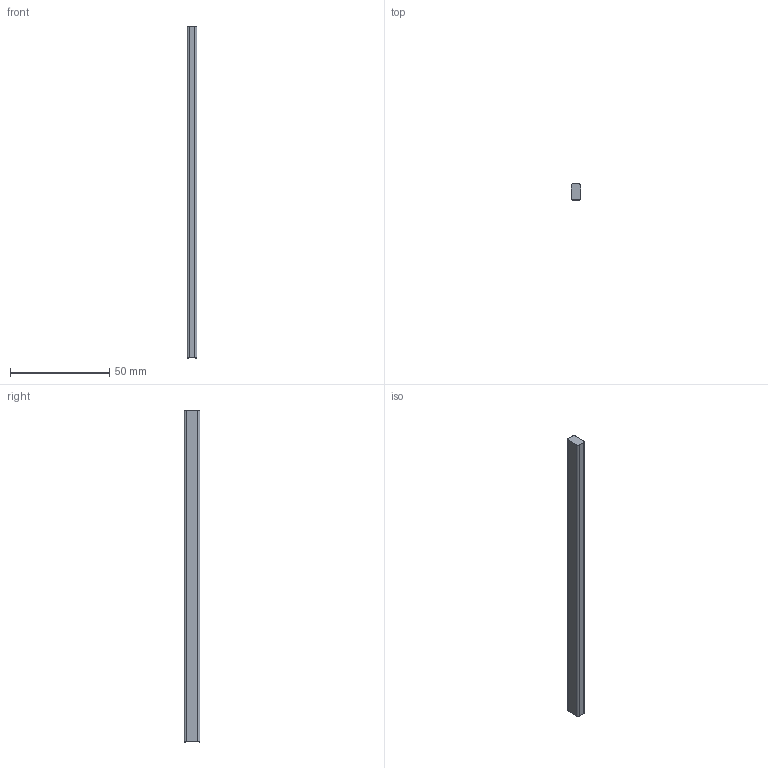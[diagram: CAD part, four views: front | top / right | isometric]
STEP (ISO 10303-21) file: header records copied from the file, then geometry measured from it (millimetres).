
FILE_DESCRIPTION(/* description */ (''),/* implementation_level */ '2;1');
FILE_NAME(/* name */ 'Funivia tutti gli elementi',/* time_stamp */ '2022-08-29T17:09:26+02:00',/* author */ (''),/* organization */ (''),/* preprocessor_version */ 'ST-DEVELOPER v16.5',/* originating_system */ 'Rhino 7.17',/* authorisation */ '');
FILE_SCHEMA (('AUTOMOTIVE_DESIGN'));
Length unit declared in the file: millimetre
Products named in the file (1): Document
Bounding box: 5 x 8 x 167.35 mm (x, y, z)
Volume: 6550.5 mm3; surface area: 4142.2 mm2
Topology: 1 solids, 1 shells, 10 faces, 24 edges, 16 vertices
Faces by surface type: plane 6, cylinder 4
Entity records: 268 total; most frequent: CARTESIAN_POINT 84, ORIENTED_EDGE 48, EDGE_CURVE 24, VERTEX_POINT 16, DIRECTION 14, AXIS2_PLACEMENT_3D 12, B_SPLINE_CURVE_WITH_KNOTS 11, ADVANCED_FACE 10
